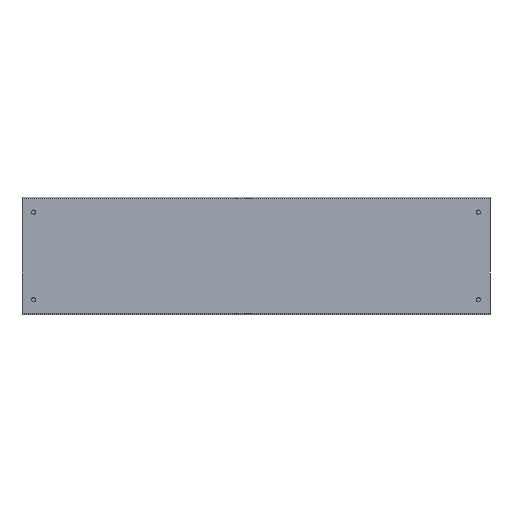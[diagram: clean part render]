
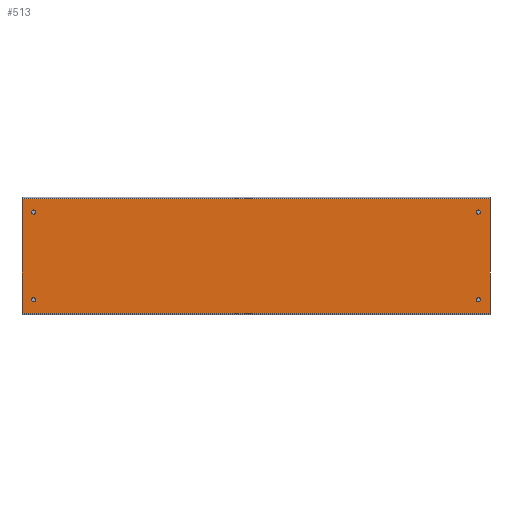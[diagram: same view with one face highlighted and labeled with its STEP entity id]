
A CAD part, top view. The second image highlights one B-rep face of the part: STEP entity #513.
In plain terms, the highlighted planar face has unit normal (0, 0, 1).
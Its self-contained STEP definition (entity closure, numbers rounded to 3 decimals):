
#25 = ORIENTED_EDGE ( 'NONE', *, *, #483, .T. ) ;
#28 = CARTESIAN_POINT ( 'NONE',  ( 380., 75., 0. ) ) ;
#29 = DIRECTION ( 'NONE',  ( 1., 0., 0. ) ) ;
#30 = VERTEX_POINT ( 'NONE', #111 ) ;
#31 = CARTESIAN_POINT ( 'NONE',  ( 380., -75., 0. ) ) ;
#83 = VERTEX_POINT ( 'NONE', #792 ) ;
#88 = DIRECTION ( 'NONE',  ( 0., 1., 0. ) ) ;
#95 = DIRECTION ( 'NONE',  ( 1., 0., 0. ) ) ;
#111 = CARTESIAN_POINT ( 'NONE',  ( -400., -98., 0. ) ) ;
#135 = PLANE ( 'NONE',  #986 ) ;
#143 = AXIS2_PLACEMENT_3D ( 'NONE', #28, #1471, #168 ) ;
#146 = FACE_BOUND ( 'NONE', #822, .T. ) ;
#168 = DIRECTION ( 'NONE',  ( 1., 0., 0. ) ) ;
#171 = EDGE_CURVE ( 'NONE', #1165, #30, #946, .T. ) ;
#173 = CARTESIAN_POINT ( 'NONE',  ( -376.5, -75., 0. ) ) ;
#174 = LINE ( 'NONE', #304, #1321 ) ;
#187 = CARTESIAN_POINT ( 'NONE',  ( -380., -75., 0. ) ) ;
#211 = VERTEX_POINT ( 'NONE', #173 ) ;
#228 = VERTEX_POINT ( 'NONE', #998 ) ;
#275 = CARTESIAN_POINT ( 'NONE',  ( 0., 0., 0. ) ) ;
#294 = AXIS2_PLACEMENT_3D ( 'NONE', #691, #1096, #1342 ) ;
#296 = CARTESIAN_POINT ( 'NONE',  ( 376.5, -75., 0. ) ) ;
#302 = DIRECTION ( 'NONE',  ( 1., 0., 0. ) ) ;
#304 = CARTESIAN_POINT ( 'NONE',  ( 400., 98., 0. ) ) ;
#308 = AXIS2_PLACEMENT_3D ( 'NONE', #510, #1556, #1537 ) ;
#309 = VECTOR ( 'NONE', #88, 1000. ) ;
#314 = DIRECTION ( 'NONE',  ( 0., 0., 1. ) ) ;
#321 = VERTEX_POINT ( 'NONE', #496 ) ;
#352 = CARTESIAN_POINT ( 'NONE',  ( -380., -75., 0. ) ) ;
#368 = AXIS2_PLACEMENT_3D ( 'NONE', #958, #1230, #29 ) ;
#375 = VERTEX_POINT ( 'NONE', #1517 ) ;
#391 = CIRCLE ( 'NONE', #518, 3.5 ) ;
#404 = LINE ( 'NONE', #1082, #1469 ) ;
#451 = DIRECTION ( 'NONE',  ( 1., 0., 0. ) ) ;
#461 = CARTESIAN_POINT ( 'NONE',  ( 400., -100., 0. ) ) ;
#475 = CARTESIAN_POINT ( 'NONE',  ( -383.5, 75., 0. ) ) ;
#476 = EDGE_LOOP ( 'NONE', ( #1605, #724 ) ) ;
#483 = EDGE_CURVE ( 'NONE', #30, #321, #404, .T. ) ;
#496 = CARTESIAN_POINT ( 'NONE',  ( 400., -98., 0. ) ) ;
#510 = CARTESIAN_POINT ( 'NONE',  ( -380., 75., 0. ) ) ;
#513 = ADVANCED_FACE ( 'NONE', ( #791, #1314, #146, #1178, #522 ), #135, .T. ) ;
#518 = AXIS2_PLACEMENT_3D ( 'NONE', #352, #884, #95 ) ;
#522 = FACE_OUTER_BOUND ( 'NONE', #917, .T. ) ;
#532 = DIRECTION ( 'NONE',  ( 1., 0., 0. ) ) ;
#576 = EDGE_LOOP ( 'NONE', ( #1341, #757 ) ) ;
#594 = ORIENTED_EDGE ( 'NONE', *, *, #1699, .F. ) ;
#612 = EDGE_CURVE ( 'NONE', #1290, #375, #902, .T. ) ;
#653 = EDGE_LOOP ( 'NONE', ( #594, #1588 ) ) ;
#672 = CIRCLE ( 'NONE', #294, 3.5 ) ;
#691 = CARTESIAN_POINT ( 'NONE',  ( 380., -75., 0. ) ) ;
#702 = EDGE_CURVE ( 'NONE', #375, #1290, #672, .T. ) ;
#709 = DIRECTION ( 'NONE',  ( 0., 0., 1. ) ) ;
#711 = DIRECTION ( 'NONE',  ( -1., 0., 0. ) ) ;
#724 = ORIENTED_EDGE ( 'NONE', *, *, #1439, .F. ) ;
#726 = AXIS2_PLACEMENT_3D ( 'NONE', #31, #314, #302 ) ;
#746 = EDGE_CURVE ( 'NONE', #228, #211, #1417, .T. ) ;
#757 = ORIENTED_EDGE ( 'NONE', *, *, #746, .F. ) ;
#788 = ORIENTED_EDGE ( 'NONE', *, *, #702, .F. ) ;
#791 = FACE_BOUND ( 'NONE', #576, .T. ) ;
#792 = CARTESIAN_POINT ( 'NONE',  ( -376.5, 75., 0. ) ) ;
#797 = DIRECTION ( 'NONE',  ( 0., 0., 1. ) ) ;
#822 = EDGE_LOOP ( 'NONE', ( #788, #1677 ) ) ;
#884 = DIRECTION ( 'NONE',  ( 0., 0., 1. ) ) ;
#902 = CIRCLE ( 'NONE', #726, 3.5 ) ;
#917 = EDGE_LOOP ( 'NONE', ( #1163, #25, #950, #1518 ) ) ;
#946 = LINE ( 'NONE', #1463, #1076 ) ;
#950 = ORIENTED_EDGE ( 'NONE', *, *, #1206, .T. ) ;
#952 = DIRECTION ( 'NONE',  ( 0., -1., 0. ) ) ;
#958 = CARTESIAN_POINT ( 'NONE',  ( -380., 75., 0. ) ) ;
#969 = VERTEX_POINT ( 'NONE', #1074 ) ;
#972 = CARTESIAN_POINT ( 'NONE',  ( 380., 75., 0. ) ) ;
#974 = CIRCLE ( 'NONE', #308, 3.5 ) ;
#986 = AXIS2_PLACEMENT_3D ( 'NONE', #275, #797, #532 ) ;
#998 = CARTESIAN_POINT ( 'NONE',  ( -383.5, -75., 0. ) ) ;
#1013 = AXIS2_PLACEMENT_3D ( 'NONE', #187, #709, #1239 ) ;
#1027 = EDGE_CURVE ( 'NONE', #1280, #83, #1068, .T. ) ;
#1068 = CIRCLE ( 'NONE', #368, 3.5 ) ;
#1074 = CARTESIAN_POINT ( 'NONE',  ( 376.5, 75., 0. ) ) ;
#1076 = VECTOR ( 'NONE', #952, 1000. ) ;
#1082 = CARTESIAN_POINT ( 'NONE',  ( -400., -98., 0. ) ) ;
#1096 = DIRECTION ( 'NONE',  ( 0., 0., 1. ) ) ;
#1118 = LINE ( 'NONE', #461, #309 ) ;
#1147 = CARTESIAN_POINT ( 'NONE',  ( -400., 98., 0. ) ) ;
#1163 = ORIENTED_EDGE ( 'NONE', *, *, #171, .T. ) ;
#1165 = VERTEX_POINT ( 'NONE', #1147 ) ;
#1178 = FACE_BOUND ( 'NONE', #653, .T. ) ;
#1206 = EDGE_CURVE ( 'NONE', #321, #1612, #1118, .T. ) ;
#1227 = DIRECTION ( 'NONE',  ( 0., 0., 1. ) ) ;
#1230 = DIRECTION ( 'NONE',  ( 0., 0., 1. ) ) ;
#1239 = DIRECTION ( 'NONE',  ( 1., 0., 0. ) ) ;
#1245 = VERTEX_POINT ( 'NONE', #1676 ) ;
#1280 = VERTEX_POINT ( 'NONE', #475 ) ;
#1281 = EDGE_CURVE ( 'NONE', #211, #228, #391, .T. ) ;
#1290 = VERTEX_POINT ( 'NONE', #296 ) ;
#1314 = FACE_BOUND ( 'NONE', #476, .T. ) ;
#1321 = VECTOR ( 'NONE', #711, 1000. ) ;
#1322 = DIRECTION ( 'NONE',  ( 1., 0., 0. ) ) ;
#1341 = ORIENTED_EDGE ( 'NONE', *, *, #1281, .F. ) ;
#1342 = DIRECTION ( 'NONE',  ( 1., 0., 0. ) ) ;
#1417 = CIRCLE ( 'NONE', #1013, 3.5 ) ;
#1439 = EDGE_CURVE ( 'NONE', #969, #1245, #1657, .T. ) ;
#1463 = CARTESIAN_POINT ( 'NONE',  ( -400., -100., 0. ) ) ;
#1469 = VECTOR ( 'NONE', #1322, 1000. ) ;
#1471 = DIRECTION ( 'NONE',  ( 0., 0., 1. ) ) ;
#1497 = EDGE_CURVE ( 'NONE', #1245, #969, #1538, .T. ) ;
#1517 = CARTESIAN_POINT ( 'NONE',  ( 383.5, -75., 0. ) ) ;
#1518 = ORIENTED_EDGE ( 'NONE', *, *, #1551, .T. ) ;
#1537 = DIRECTION ( 'NONE',  ( 1., 0., 0. ) ) ;
#1538 = CIRCLE ( 'NONE', #1627, 3.5 ) ;
#1546 = CARTESIAN_POINT ( 'NONE',  ( 400., 98., 0. ) ) ;
#1551 = EDGE_CURVE ( 'NONE', #1612, #1165, #174, .T. ) ;
#1556 = DIRECTION ( 'NONE',  ( 0., 0., 1. ) ) ;
#1588 = ORIENTED_EDGE ( 'NONE', *, *, #1027, .F. ) ;
#1605 = ORIENTED_EDGE ( 'NONE', *, *, #1497, .F. ) ;
#1612 = VERTEX_POINT ( 'NONE', #1546 ) ;
#1627 = AXIS2_PLACEMENT_3D ( 'NONE', #972, #1227, #451 ) ;
#1657 = CIRCLE ( 'NONE', #143, 3.5 ) ;
#1676 = CARTESIAN_POINT ( 'NONE',  ( 383.5, 75., 0. ) ) ;
#1677 = ORIENTED_EDGE ( 'NONE', *, *, #612, .F. ) ;
#1699 = EDGE_CURVE ( 'NONE', #83, #1280, #974, .T. ) ;
